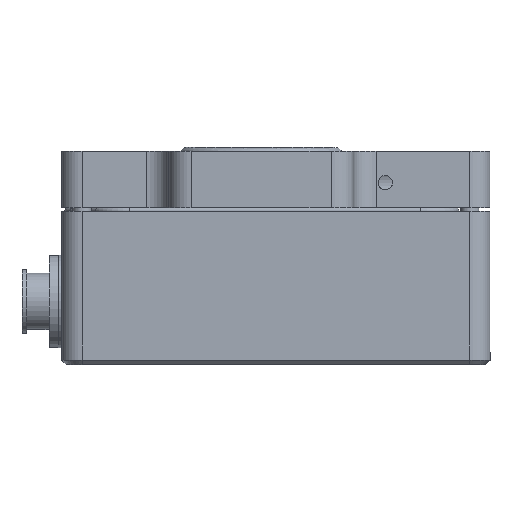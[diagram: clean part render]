
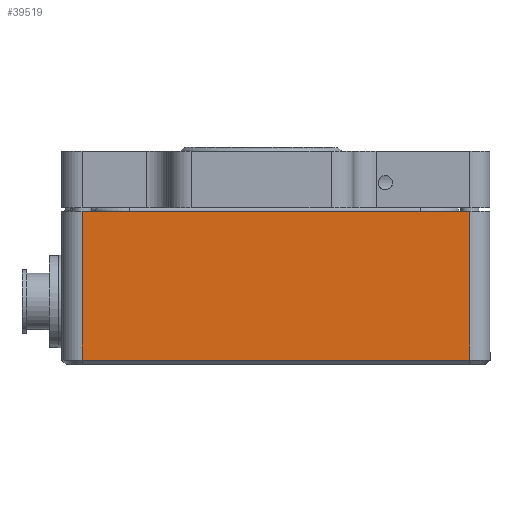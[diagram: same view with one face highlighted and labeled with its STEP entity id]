
A CAD part, front view. The second image highlights one B-rep face of the part: STEP entity #39519.
In plain terms, the highlighted planar face has unit normal (0, -1, 0) as drawn and (0, 1, 0) by its records, which use the part's own axes.
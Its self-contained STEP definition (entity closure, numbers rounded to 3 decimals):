
#7664=PLANE('',#44884);
#9127=FACE_OUTER_BOUND('',#12294,.T.);
#12294=EDGE_LOOP('',(#37581,#37582,#37583,#37584));
#14113=LINE('',#70799,#15920);
#14127=LINE('',#70838,#15934);
#14128=LINE('',#70842,#15935);
#14129=LINE('',#70843,#15936);
#15920=VECTOR('',#56634,10.);
#15934=VECTOR('',#56678,10.);
#15935=VECTOR('',#56683,10.);
#15936=VECTOR('',#56684,10.);
#20345=VERTEX_POINT('',#70795);
#20346=VERTEX_POINT('',#70797);
#20356=VERTEX_POINT('',#70837);
#20357=VERTEX_POINT('',#70841);
#26112=EDGE_CURVE('',#20346,#20345,#14113,.T.);
#26131=EDGE_CURVE('',#20356,#20345,#14127,.T.);
#26133=EDGE_CURVE('',#20357,#20346,#14128,.T.);
#26134=EDGE_CURVE('',#20357,#20356,#14129,.T.);
#37581=ORIENTED_EDGE('',*,*,#26112,.F.);
#37582=ORIENTED_EDGE('',*,*,#26133,.F.);
#37583=ORIENTED_EDGE('',*,*,#26134,.T.);
#37584=ORIENTED_EDGE('',*,*,#26131,.T.);
#39519=ADVANCED_FACE('',(#9127),#7664,.T.);
#44884=AXIS2_PLACEMENT_3D('',#70840,#56681,#56682);
#56634=DIRECTION('',(-1.,0.,0.));
#56678=DIRECTION('',(0.,0.,1.));
#56681=DIRECTION('center_axis',(0.,1.,0.));
#56682=DIRECTION('ref_axis',(-1.,0.,0.));
#56683=DIRECTION('',(0.,0.,1.));
#56684=DIRECTION('',(-1.,0.,0.));
#70795=CARTESIAN_POINT('',(-39.7,31.,33.));
#70797=CARTESIAN_POINT('',(46.2,31.,33.));
#70799=CARTESIAN_POINT('',(24.725,31.,33.));
#70837=CARTESIAN_POINT('',(-39.7,31.,0.));
#70838=CARTESIAN_POINT('',(-39.7,31.,0.));
#70840=CARTESIAN_POINT('Origin',(46.2,31.,0.));
#70841=CARTESIAN_POINT('',(46.2,31.,0.));
#70842=CARTESIAN_POINT('',(46.2,31.,0.));
#70843=CARTESIAN_POINT('',(46.2,31.,0.));
